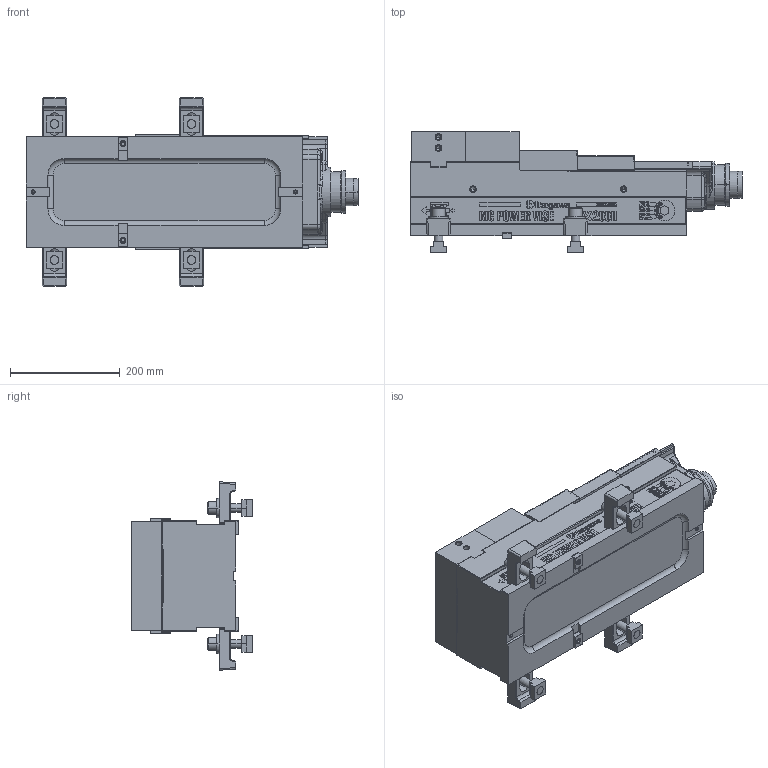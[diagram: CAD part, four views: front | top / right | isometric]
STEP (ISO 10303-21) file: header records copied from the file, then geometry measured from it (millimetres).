
FILE_DESCRIPTION (( 'STEP AP214' ), '1' );
FILE_NAME ('VQX200N_C.STEP', '2023-08-06T23:36:39', ( '' ), ( '' ), 'SwSTEP 2.0', 'SolidWorks 2020', '' );
FILE_SCHEMA (( 'AUTOMOTIVE_DESIGN' ));
Length unit declared in the file: millimetre
Products named in the file (19): 僒僀僪僔乕儖R(61M8170700); クランプクミタテ(61M420565); ガイドブロック(61M4197783); Bアナツキ M16×65; ボデー(61M1066327)VQX200; 僕儑乕F(61M3964100)VQX200N; T僗儘僢僩僫僢僩俿俶俵侾俉侾俇; 僕儑乕M(61俵3964110)VQX200N; スプリングケース(61M2340692)VQX200; カバアリング(61M4267321)VQX160; 僗儔僀僪僇僶乕X(61M8024122)VQX200N; 僗儔僀僪僇僶乕Z(61M8024141)VQX200N; 儚僢僔儍丂16乮61M4266330乯; VQX200N_C; スリーブ他(61M3231673)VQ100; VQX200Nホンタイ; 僒僀僪僔乕儖L(61M8170710); 僗儔僀僪僇僶乕Y(61M8024132)VQX200N; クランプ(61M3159626)VP160
Assembly tree (22 placements, depth 3):
  VQX200N_C
    VQX200Nホンタイ
      ボデー(61M1066327)VQX200
      ガイドブロック(61M4197783)  x2
      スプリングケース(61M2340692)VQX200
      カバアリング(61M4267321)VQX160
      スリーブ他(61M3231673)VQ100
      僕儑乕F(61M3964100)VQX200N
      僕儑乕M(61俵3964110)VQX200N
      僗儔僀僪僇僶乕X(61M8024122)VQX200N
      僗儔僀僪僇僶乕Y(61M8024132)VQX200N
      僗儔僀僪僇僶乕Z(61M8024141)VQX200N
      僒僀僪僔乕儖L(61M8170710)
      僒僀僪僔乕儖R(61M8170700)
    クランプクミタテ(61M420565)  x4
      クランプ(61M3159626)VP160
      儚僢僔儍丂16乮61M4266330乯
      Bアナツキ M16×65
      T僗儘僢僩僫僢僩俿俶俵侾俉侾俇
Bounding box: 606 x 220 x 344 mm (x, y, z)
Volume: 16368699 mm3; surface area: 1052703.7 mm2
Topology: 29 solids, 29 shells, 1200 faces, 6255 edges, 5419 vertices
Faces by surface type: plane 810, cylinder 251, cone 98, torus 21, bspline 20
Entity records: 69610 total; most frequent: CARTESIAN_POINT 18096, ORIENTED_EDGE 11412, DIRECTION 7678, EDGE_CURVE 5706, VERTEX_POINT 5089, LINE 4592, VECTOR 4592, AXIS2_PLACEMENT_3D 1543
